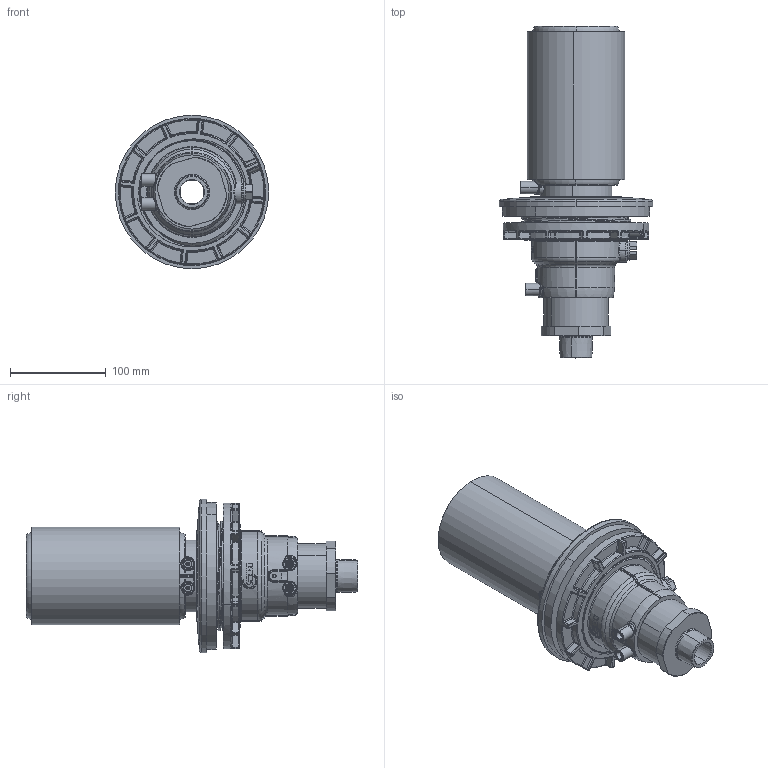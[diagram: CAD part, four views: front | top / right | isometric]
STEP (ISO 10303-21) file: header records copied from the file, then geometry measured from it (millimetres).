
FILE_DESCRIPTION (( 'STEP AP214' ), '1' );
FILE_NAME ('KP TM75-63SCA25.STEP', '2021-06-23T13:01:57', ( '' ), ( '' ), 'SwSTEP 2.0', 'SolidWorks 2019', '' );
FILE_SCHEMA (( 'AUTOMOTIVE_DESIGN' ));
Length unit declared in the file: millimetre
Products named in the file (1): KP TM75-63SCA25
Bounding box: 160 x 346 x 160 mm (x, y, z)
Volume: 1547906.2 mm3; surface area: 518862 mm2
Topology: 8 solids, 18 shells, 3271 faces, 8109 edges, 4800 vertices
Faces by surface type: plane 1149, cylinder 779, bspline 680, torus 345, cone 176, sphere 142
Entity records: 166705 total; most frequent: CARTESIAN_POINT 60459, ORIENTED_EDGE 15824, DIRECTION 13382, EDGE_CURVE 7912, AXIS2_PLACEMENT_3D 5332, VERTEX_POINT 4774, EDGE_LOOP 3402, UNCERTAINTY_MEASURE_WITH_UNIT 3281
